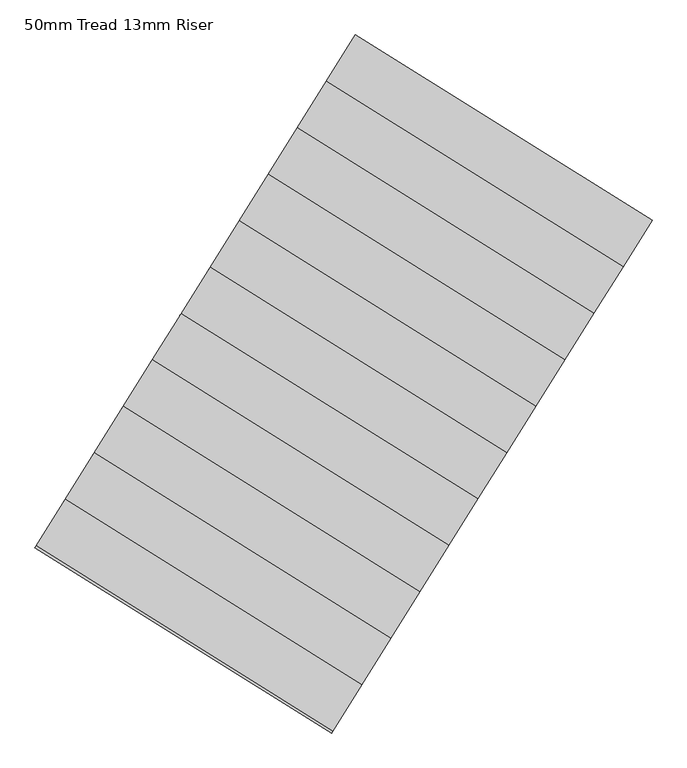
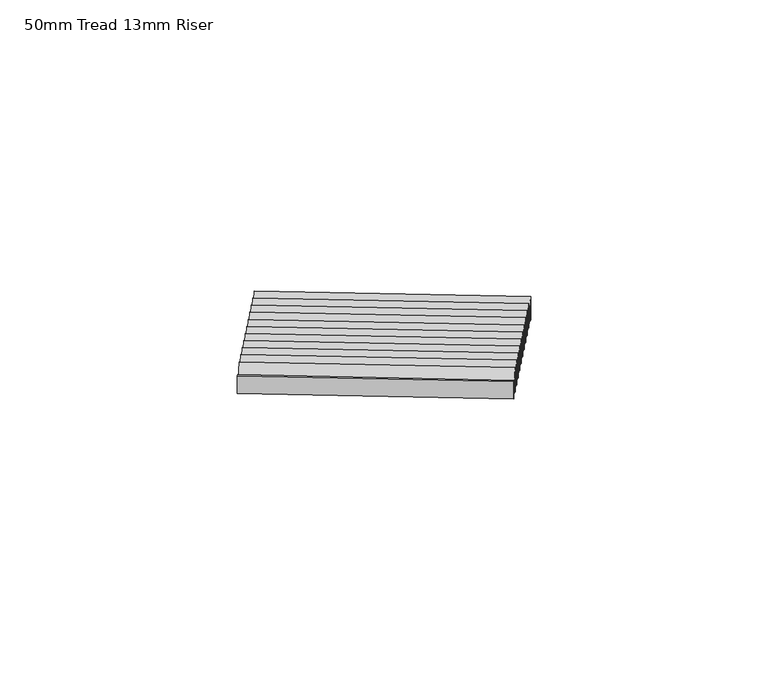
"""IFC4 building model written with IfcOpenShell, lengths in millimetres: stair flight geometry, 50mm Tread 13mm Riser."""

from ifc_helpers import new_model, si_unit, frame, origin, place, context, project, spatial, polyline, outline, extrude, source, transform, mapped, element, save


def stair_flight_50mm_tread_13mm_riser_69ac6ef4(model_context):
    return source(origin(), model_context, "Body", "SweptSolid", [
        extrude(outline(polyline([(47669.3716119, -50555.0585154), (47675.9956027, -50544.4579142), (49301.8555649, -51560.4079751), (49295.2315741, -51571.0085763), (47669.3716119, -50555.0585154)])), frame((0.0, 0.0, -1850.0), z_axis=(0.0, 0.0, 1.0), x_axis=(1.0, 0.0, 0.0)), (0.0, 0.0, 1.0), 150.0),
        extrude(outline(polyline([(49142.8797856, -51814.8224039), (47517.0198234, -50798.872343), (47675.9956027, -50544.4579142), (49301.8555649, -51560.4079751), (49142.8797856, -51814.8224039)])), frame((0.0, 0.0, -1700.0), z_axis=(0.0, 0.0, 1.0), x_axis=(1.0, 0.0, 0.0)), (0.0, 0.0, 1.0), 50.0),
        extrude(outline(polyline([(47510.3958326, -50809.4729442), (47517.0198234, -50798.872343), (49142.8797856, -51814.8224039), (49136.2557948, -51825.4230051), (47510.3958326, -50809.4729442)])), frame((0.0, 0.0, -1700.0), z_axis=(0.0, 0.0, 1.0), x_axis=(1.0, 0.0, 0.0)), (0.0, 0.0, 1.0), 150.0),
        extrude(outline(polyline([(48983.9040063, -52069.2368327), (47358.0440441, -51053.2867719), (47517.0198234, -50798.872343), (49142.8797856, -51814.8224039), (48983.9040063, -52069.2368327)])), frame((0.0, 0.0, -1550.0), z_axis=(0.0, 0.0, 1.0), x_axis=(1.0, 0.0, 0.0)), (0.0, 0.0, 1.0), 50.0),
        extrude(outline(polyline([(47351.4200533, -51063.8873731), (47358.0440441, -51053.2867719), (48983.9040063, -52069.2368327), (48977.2800155, -52079.837434), (47351.4200533, -51063.8873731)])), frame((0.0, 0.0, -1550.0), z_axis=(0.0, 0.0, 1.0), x_axis=(1.0, 0.0, 0.0)), (0.0, 0.0, 1.0), 150.0),
        extrude(outline(polyline([(48824.9282271, -52323.6512616), (47199.0682649, -51307.7012007), (47358.0440441, -51053.2867719), (48983.9040063, -52069.2368327), (48824.9282271, -52323.6512616)])), frame((0.0, 0.0, -1400.0), z_axis=(0.0, 0.0, 1.0), x_axis=(1.0, 0.0, 0.0)), (0.0, 0.0, 1.0), 50.0),
        extrude(outline(polyline([(47192.4442741, -51318.3018019), (47199.0682649, -51307.7012007), (48824.9282271, -52323.6512616), (48818.3042363, -52334.2518628), (47192.4442741, -51318.3018019)])), frame((0.0, 0.0, -1400.0), z_axis=(0.0, 0.0, 1.0), x_axis=(1.0, 0.0, 0.0)), (0.0, 0.0, 1.0), 150.0),
        extrude(outline(polyline([(48665.9524478, -52578.0656904), (47040.0924856, -51562.1156296), (47199.0682649, -51307.7012007), (48824.9282271, -52323.6512616), (48665.9524478, -52578.0656904)])), frame((0.0, 0.0, -1250.0), z_axis=(0.0, 0.0, 1.0), x_axis=(1.0, 0.0, 0.0)), (0.0, 0.0, 1.0), 50.0),
        extrude(outline(polyline([(47033.4684948, -51572.7162308), (47040.0924856, -51562.1156296), (48665.9524478, -52578.0656904), (48659.328457, -52588.6662916), (47033.4684948, -51572.7162308)])), frame((0.0, 0.0, -1250.0), z_axis=(0.0, 0.0, 1.0), x_axis=(1.0, 0.0, 0.0)), (0.0, 0.0, 1.0), 150.0),
        extrude(outline(polyline([(48506.9766685, -52832.4801193), (46881.1167063, -51816.5300584), (47040.0924856, -51562.1156296), (48665.9524478, -52578.0656904), (48506.9766685, -52832.4801193)])), frame((0.0, 0.0, -1100.0), z_axis=(0.0, 0.0, 1.0), x_axis=(1.0, 0.0, 0.0)), (0.0, 0.0, 1.0), 50.0),
        extrude(outline(polyline([(46874.4927155, -51827.1306596), (46881.1167063, -51816.5300584), (48506.9766685, -52832.4801193), (48500.3526777, -52843.0807205), (46874.4927155, -51827.1306596)])), frame((0.0, 0.0, -1100.0), z_axis=(0.0, 0.0, 1.0), x_axis=(1.0, 0.0, 0.0)), (0.0, 0.0, 1.0), 150.0),
        extrude(outline(polyline([(48348.0008893, -53086.8945481), (46722.140927, -52070.9444872), (46881.1167063, -51816.5300584), (48506.9766685, -52832.4801193), (48348.0008893, -53086.8945481)])), frame((0.0, 0.0, -950.0), z_axis=(0.0, 0.0, 1.0), x_axis=(1.0, 0.0, 0.0)), (0.0, 0.0, 1.0), 50.0),
        extrude(outline(polyline([(46715.5169362, -52081.5450885), (46722.140927, -52070.9444872), (48348.0008893, -53086.8945481), (48341.3768985, -53097.4951493), (46715.5169362, -52081.5450885)])), frame((0.0, 0.0, -950.0), z_axis=(0.0, 0.0, 1.0), x_axis=(1.0, 0.0, 0.0)), (0.0, 0.0, 1.0), 150.0),
        extrude(outline(polyline([(48189.02511, -53341.308977), (46563.1651478, -52325.3589161), (46722.140927, -52070.9444872), (48348.0008893, -53086.8945481), (48189.02511, -53341.308977)])), frame((0.0, 0.0, -800.0), z_axis=(0.0, 0.0, 1.0), x_axis=(1.0, 0.0, 0.0)), (0.0, 0.0, 1.0), 50.0),
        extrude(outline(polyline([(46556.541157, -52335.9595173), (46563.1651478, -52325.3589161), (48189.02511, -53341.308977), (48182.4011192, -53351.9095782), (46556.541157, -52335.9595173)])), frame((0.0, 0.0, -800.0), z_axis=(0.0, 0.0, 1.0), x_axis=(1.0, 0.0, 0.0)), (0.0, 0.0, 1.0), 150.0),
        extrude(outline(polyline([(48030.0493307, -53595.7234058), (46404.1893685, -52579.7733449), (46563.1651478, -52325.3589161), (48189.02511, -53341.308977), (48030.0493307, -53595.7234058)])), frame((0.0, 0.0, -650.0), z_axis=(0.0, 0.0, 1.0), x_axis=(1.0, 0.0, 0.0)), (0.0, 0.0, 1.0), 50.0),
        extrude(outline(polyline([(46397.5653777, -52590.3739461), (46404.1893685, -52579.7733449), (48030.0493307, -53595.7234058), (48023.4253399, -53606.324007), (46397.5653777, -52590.3739461)])), frame((0.0, 0.0, -650.0), z_axis=(0.0, 0.0, 1.0), x_axis=(1.0, 0.0, 0.0)), (0.0, 0.0, 1.0), 150.0),
        extrude(outline(polyline([(47871.0735515, -53850.1378347), (46245.2135892, -52834.1877738), (46404.1893685, -52579.7733449), (48030.0493307, -53595.7234058), (47871.0735515, -53850.1378347)])), frame((0.0, 0.0, -500.0), z_axis=(0.0, 0.0, 1.0), x_axis=(1.0, 0.0, 0.0)), (0.0, 0.0, 1.0), 50.0),
        extrude(outline(polyline([(46238.5895984, -52844.788375), (46245.2135892, -52834.1877738), (47871.0735515, -53850.1378347), (47864.4495607, -53860.7384359), (46238.5895984, -52844.788375)])), frame((0.0, 0.0, -500.0), z_axis=(0.0, 0.0, 1.0), x_axis=(1.0, 0.0, 0.0)), (0.0, 0.0, 1.0), 150.0),
        extrude(outline(polyline([(47712.0977722, -54104.5522635), (46086.23781, -53088.6022026), (46245.2135892, -52834.1877738), (47871.0735515, -53850.1378347), (47712.0977722, -54104.5522635)])), frame((0.0, 0.0, -350.0), z_axis=(0.0, 0.0, 1.0), x_axis=(1.0, 0.0, 0.0)), (0.0, 0.0, 1.0), 50.0),
        extrude(outline(polyline([(46079.6138192, -53099.2028038), (46086.23781, -53088.6022026), (47712.0977722, -54104.5522635), (47705.4737814, -54115.1528647), (46079.6138192, -53099.2028038)])), frame((0.0, 0.0, -350.0), z_axis=(0.0, 0.0, 1.0), x_axis=(1.0, 0.0, 0.0)), (0.0, 0.0, 1.0), 150.0),
        extrude(outline(polyline([(45920.6380399, -53353.6172327), (45927.2620307, -53343.0166315), (47553.1219929, -54358.9666924), (47546.4980021, -54369.5672936), (45920.6380399, -53353.6172327)])), frame((0.0, 0.0, -200.0), z_axis=(0.0, 0.0, 1.0), x_axis=(1.0, 0.0, 0.0)), (0.0, 0.0, 1.0), 150.0),
        extrude(outline(polyline([(47553.1219929, -54358.9666924), (45927.2620307, -53343.0166315), (46086.23781, -53088.6022026), (47712.0977722, -54104.5522635), (47553.1219929, -54358.9666924)])), frame((0.0, 0.0, -200.0), z_axis=(0.0, 0.0, 1.0), x_axis=(1.0, 0.0, 0.0)), (0.0, 0.0, 1.0), 50.0),
    ])


if __name__ == "__main__":
    model = new_model("IFC4")
    model_context = context("Model", 3, world=origin())
    ifc_project = project(units=[si_unit("LENGTHUNIT", "METRE", prefix="MILLI")], contexts=[model_context])
    site = spatial("IfcSite", under=ifc_project)
    building = spatial("IfcBuilding", under=site)
    placement = place(None, origin())
    stair_flight_50mm_tread_13mm_riser_shape = stair_flight_50mm_tread_13mm_riser_69ac6ef4(model_context)
    element("IfcStairFlight", 1, ObjectType="50mm Tread 13mm Riser", at=placement, inside=building, context=model_context, shape_type="MappedRepresentation", body=[
        mapped(stair_flight_50mm_tread_13mm_riser_shape, transform((0.0, 0.0, 0.0), x_axis=(1.0, 0.0, 0.0), y_axis=(0.0, 1.0, 0.0), z_axis=(0.0, 0.0, 1.0))),
    ])
    save(model, "model.ifc")
